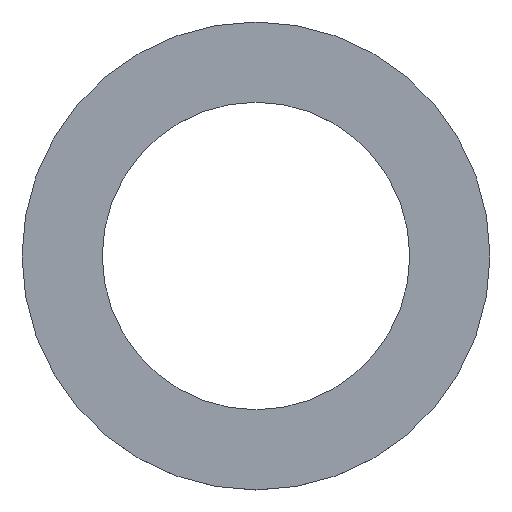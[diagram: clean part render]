
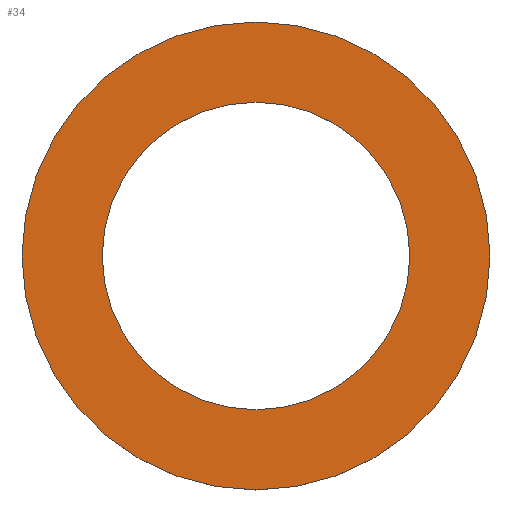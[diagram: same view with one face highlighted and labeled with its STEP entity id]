
A CAD part, top view. The second image highlights one B-rep face of the part: STEP entity #34.
In plain terms, the highlighted planar face has unit normal (0, 0, 1).
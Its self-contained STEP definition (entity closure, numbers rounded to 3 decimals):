
#5 = EDGE_CURVE ( 'NONE', #114, #244, #85, .T. ) ;
#11 = EDGE_CURVE ( 'NONE', #244, #114, #220, .T. ) ;
#19 = DIRECTION ( 'NONE',  ( 1., 0., 0. ) ) ;
#34 = ADVANCED_FACE ( 'NONE', ( #112, #110 ), #190, .T. ) ;
#39 = DIRECTION ( 'NONE',  ( 0., 0., 1. ) ) ;
#44 = DIRECTION ( 'NONE',  ( 0., 0., 1. ) ) ;
#47 = CARTESIAN_POINT ( 'NONE',  ( 0., 0., 0.4 ) ) ;
#58 = CARTESIAN_POINT ( 'NONE',  ( 0., 0., 0.4 ) ) ;
#63 = CARTESIAN_POINT ( 'NONE',  ( 0., 0., 0.4 ) ) ;
#65 = EDGE_CURVE ( 'NONE', #122, #141, #204, .T. ) ;
#71 = CIRCLE ( 'NONE', #136, 4.6 ) ;
#72 = ORIENTED_EDGE ( 'NONE', *, *, #164, .F. ) ;
#77 = ORIENTED_EDGE ( 'NONE', *, *, #65, .F. ) ;
#85 = CIRCLE ( 'NONE', #226, 7. ) ;
#92 = CARTESIAN_POINT ( 'NONE',  ( 0., 0., 0.4 ) ) ;
#96 = AXIS2_PLACEMENT_3D ( 'NONE', #58, #210, #19 ) ;
#108 = ORIENTED_EDGE ( 'NONE', *, *, #11, .T. ) ;
#109 = DIRECTION ( 'NONE',  ( 0., 0., 1. ) ) ;
#110 = FACE_BOUND ( 'NONE', #140, .T. ) ;
#111 = CARTESIAN_POINT ( 'NONE',  ( 0., 0., 0.4 ) ) ;
#112 = FACE_OUTER_BOUND ( 'NONE', #249, .T. ) ;
#114 = VERTEX_POINT ( 'NONE', #212 ) ;
#122 = VERTEX_POINT ( 'NONE', #194 ) ;
#126 = DIRECTION ( 'NONE',  ( 1., 0., 0. ) ) ;
#132 = DIRECTION ( 'NONE',  ( 1., 0., 0. ) ) ;
#136 = AXIS2_PLACEMENT_3D ( 'NONE', #47, #44, #199 ) ;
#140 = EDGE_LOOP ( 'NONE', ( #77, #72 ) ) ;
#141 = VERTEX_POINT ( 'NONE', #172 ) ;
#150 = DIRECTION ( 'NONE',  ( 1., 0., 0. ) ) ;
#160 = AXIS2_PLACEMENT_3D ( 'NONE', #63, #39, #126 ) ;
#164 = EDGE_CURVE ( 'NONE', #141, #122, #71, .T. ) ;
#172 = CARTESIAN_POINT ( 'NONE',  ( 4.6, 0., 0.4 ) ) ;
#184 = ORIENTED_EDGE ( 'NONE', *, *, #5, .T. ) ;
#190 = PLANE ( 'NONE',  #203 ) ;
#194 = CARTESIAN_POINT ( 'NONE',  ( -4.6, 0., 0.4 ) ) ;
#199 = DIRECTION ( 'NONE',  ( 1., 0., 0. ) ) ;
#202 = CARTESIAN_POINT ( 'NONE',  ( 7., 0., 0.4 ) ) ;
#203 = AXIS2_PLACEMENT_3D ( 'NONE', #92, #109, #150 ) ;
#204 = CIRCLE ( 'NONE', #160, 4.6 ) ;
#210 = DIRECTION ( 'NONE',  ( 0., 0., 1. ) ) ;
#212 = CARTESIAN_POINT ( 'NONE',  ( -7., 0., 0.4 ) ) ;
#220 = CIRCLE ( 'NONE', #96, 7. ) ;
#226 = AXIS2_PLACEMENT_3D ( 'NONE', #111, #230, #132 ) ;
#230 = DIRECTION ( 'NONE',  ( 0., 0., 1. ) ) ;
#244 = VERTEX_POINT ( 'NONE', #202 ) ;
#249 = EDGE_LOOP ( 'NONE', ( #184, #108 ) ) ;
